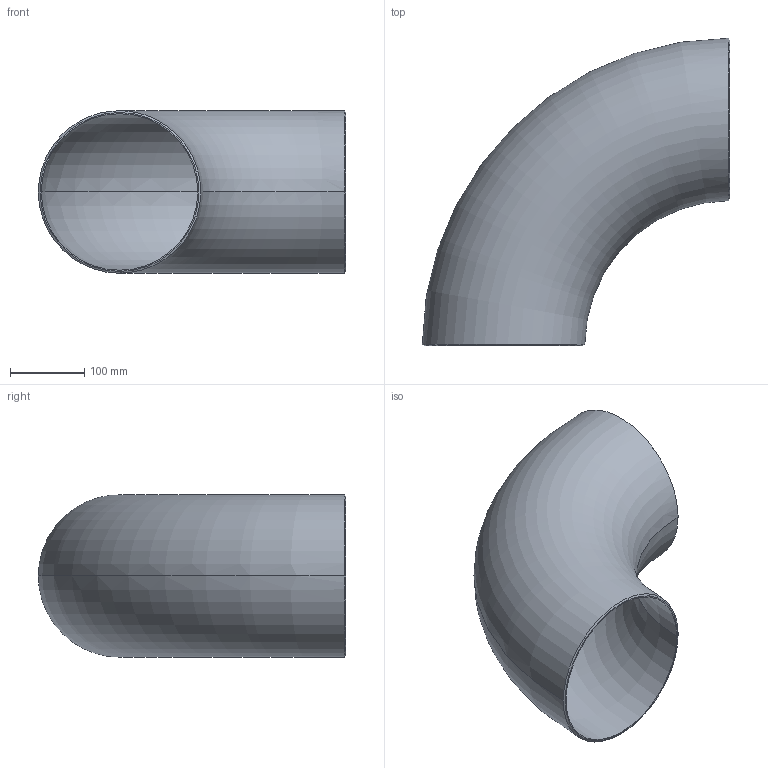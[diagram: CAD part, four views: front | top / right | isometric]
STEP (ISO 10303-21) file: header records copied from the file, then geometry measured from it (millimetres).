
FILE_DESCRIPTION (( 'STEP AP203' ), '1' );
FILE_NAME ('OT200-200-219_1x4_OSTP.step', '2020-12-16T02:57:47', ( '' ), ( '' ), 'SwSTEP 2.0', 'SolidWorks 2014', '' );
FILE_SCHEMA (( 'CONFIG_CONTROL_DESIGN' ));
Length unit declared in the file: millimetre
Products named in the file (1): OT200-200-219_1x4_OSTP
Bounding box: 414.55 x 414.55 x 218.95 mm (x, y, z)
Volume: 1288493.8 mm3; surface area: 651110.4 mm2
Topology: 1 solids, 1 shells, 10 faces, 20 edges, 12 vertices
Faces by surface type: torus 4, cone 4, plane 2
Entity records: 606 total; most frequent: CARTESIAN_POINT 312, DIRECTION 50, ORIENTED_EDGE 40, AXIS2_PLACEMENT_3D 23, EDGE_CURVE 20, CIRCLE 12, EDGE_LOOP 12, VERTEX_POINT 12
